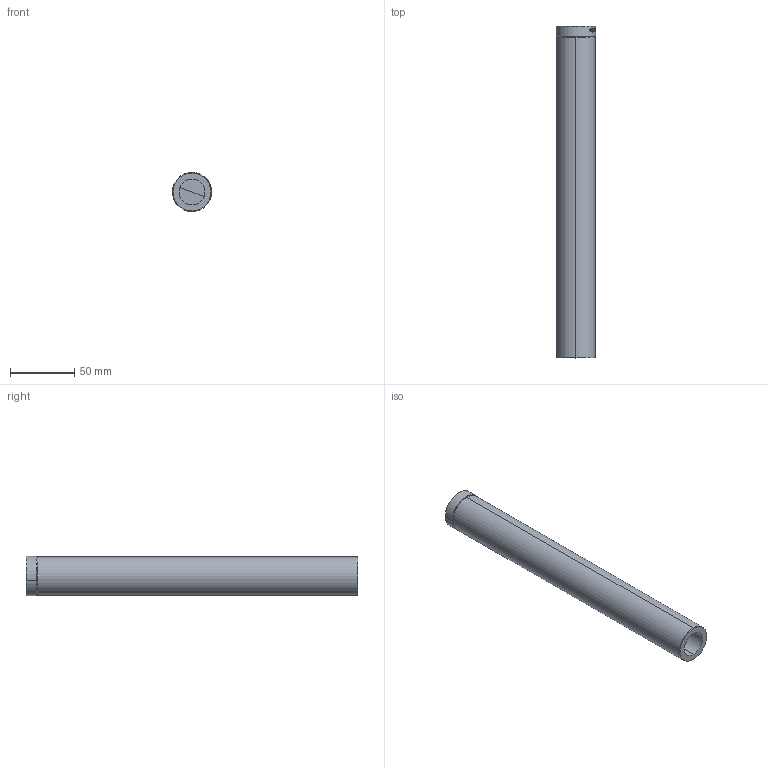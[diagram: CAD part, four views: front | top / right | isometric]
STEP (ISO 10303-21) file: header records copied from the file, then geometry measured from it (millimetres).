
FILE_DESCRIPTION (( 'STEP AP214' ), '1' );
FILE_NAME ('す俴嫖奪.STEP', '2026-05-16T08:36:13', ( '' ), ( '' ), 'SwSTEP 2.0', 'SolidWorks 2024', '' );
FILE_SCHEMA (( 'AUTOMOTIVE_DESIGN' ));
Length unit declared in the file: millimetre
Products named in the file (5): 卡环; 平行光管; lo-sm1-a7_1.step; AC254-400-A-Solidworks
Assembly tree (4 placements, depth 2):
  平行光管
    平行光管
    卡环
    lo-sm1-a7_1.step
    AC254-400-A-Solidworks
Bounding box: 30.45 x 258.4 x 30.41 mm (x, y, z)
Volume: 101192.8 mm3; surface area: 46149.8 mm2
Topology: 5 solids, 5 shells, 210 faces, 598 edges, 430 vertices
Faces by surface type: cylinder 74, bspline 51, plane 50, cone 27, sphere 8
Entity records: 15080 total; most frequent: CARTESIAN_POINT 9933, ORIENTED_EDGE 1196, DIRECTION 809, EDGE_CURVE 598, VERTEX_POINT 430, AXIS2_PLACEMENT_3D 323, EDGE_LOOP 248, B_SPLINE_CURVE_WITH_KNOTS 236
